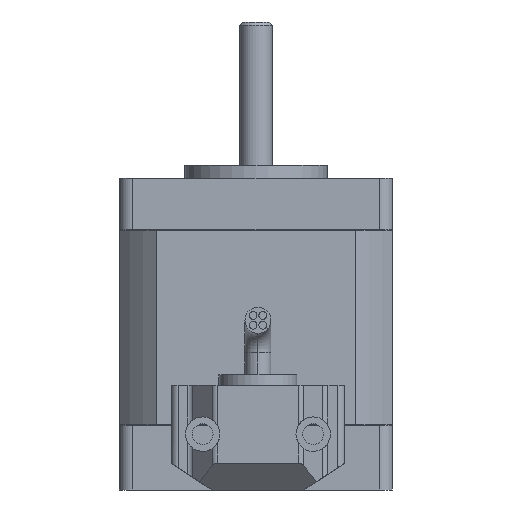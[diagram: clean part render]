
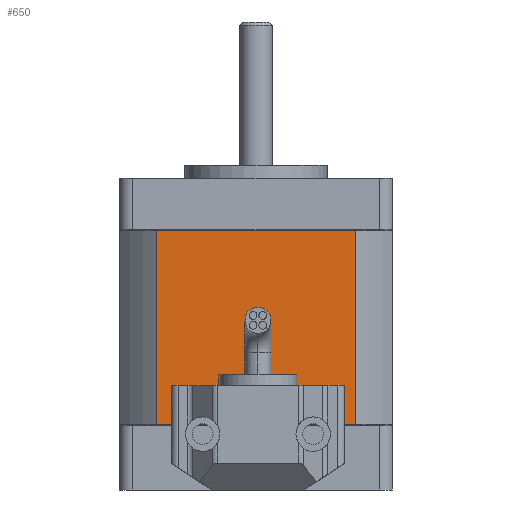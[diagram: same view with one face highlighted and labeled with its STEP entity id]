
A CAD part, front view. The second image highlights one B-rep face of the part: STEP entity #650.
In plain terms, the highlighted planar face has unit normal (0, -1, 0).
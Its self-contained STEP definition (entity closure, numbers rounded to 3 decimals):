
#10 = VERTEX_POINT ( 'NONE', #4360 ) ;
#185 = LINE ( 'NONE', #3526, #1038 ) ;
#225 = EDGE_LOOP ( 'NONE', ( #3712, #3218, #2994, #1503 ) ) ;
#650 = ADVANCED_FACE ( 'NONE', ( #3143 ), #2968, .F. ) ;
#864 = CARTESIAN_POINT ( 'NONE',  ( -15.33, -21., 40. ) ) ;
#986 = VECTOR ( 'NONE', #1930, 1000. ) ;
#1038 = VECTOR ( 'NONE', #1782, 1000. ) ;
#1243 = CARTESIAN_POINT ( 'NONE',  ( -15.33, -21., 40. ) ) ;
#1372 = LINE ( 'NONE', #3056, #4278 ) ;
#1421 = VECTOR ( 'NONE', #3903, 1000. ) ;
#1503 = ORIENTED_EDGE ( 'NONE', *, *, #4325, .T. ) ;
#1627 = LINE ( 'NONE', #1243, #986 ) ;
#1782 = DIRECTION ( 'NONE',  ( 0., 0., -1. ) ) ;
#1887 = VERTEX_POINT ( 'NONE', #864 ) ;
#1930 = DIRECTION ( 'NONE',  ( 0., 0., 1. ) ) ;
#1931 = CARTESIAN_POINT ( 'NONE',  ( -19., -21., 48. ) ) ;
#2014 = EDGE_CURVE ( 'NONE', #2928, #1887, #1627, .T. ) ;
#2061 = VERTEX_POINT ( 'NONE', #4240 ) ;
#2320 = LINE ( 'NONE', #3809, #1421 ) ;
#2528 = EDGE_CURVE ( 'NONE', #10, #2928, #2320, .T. ) ;
#2928 = VERTEX_POINT ( 'NONE', #3796 ) ;
#2968 = PLANE ( 'NONE',  #3184 ) ;
#2994 = ORIENTED_EDGE ( 'NONE', *, *, #3221, .F. ) ;
#3056 = CARTESIAN_POINT ( 'NONE',  ( -19., -21., 40. ) ) ;
#3143 = FACE_OUTER_BOUND ( 'NONE', #225, .T. ) ;
#3184 = AXIS2_PLACEMENT_3D ( 'NONE', #1931, #3406, #3386 ) ;
#3218 = ORIENTED_EDGE ( 'NONE', *, *, #2528, .F. ) ;
#3221 = EDGE_CURVE ( 'NONE', #2061, #10, #185, .T. ) ;
#3386 = DIRECTION ( 'NONE',  ( -1., 0., 0. ) ) ;
#3406 = DIRECTION ( 'NONE',  ( 0., 1., 0. ) ) ;
#3526 = CARTESIAN_POINT ( 'NONE',  ( 15.33, -21., 40. ) ) ;
#3712 = ORIENTED_EDGE ( 'NONE', *, *, #2014, .F. ) ;
#3796 = CARTESIAN_POINT ( 'NONE',  ( -15.33, -21., 10. ) ) ;
#3809 = CARTESIAN_POINT ( 'NONE',  ( -4., -21., 10. ) ) ;
#3903 = DIRECTION ( 'NONE',  ( -1., 0., 0. ) ) ;
#4101 = DIRECTION ( 'NONE',  ( -1., 0., 0. ) ) ;
#4240 = CARTESIAN_POINT ( 'NONE',  ( 15.33, -21., 40. ) ) ;
#4278 = VECTOR ( 'NONE', #4101, 1000. ) ;
#4325 = EDGE_CURVE ( 'NONE', #2061, #1887, #1372, .T. ) ;
#4360 = CARTESIAN_POINT ( 'NONE',  ( 15.33, -21., 10. ) ) ;
